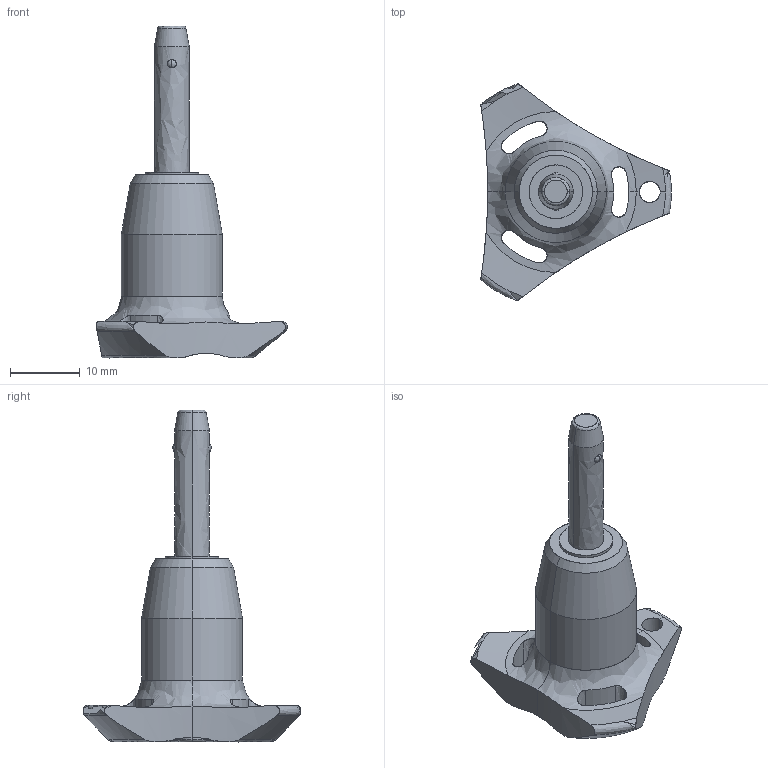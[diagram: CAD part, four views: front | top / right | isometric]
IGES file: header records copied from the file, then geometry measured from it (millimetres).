
Start section: SolidWorks IGES file using analytic representation for surfaces
Global section: file name: C:\Users\ianosborn\Desktop\QR1704_v2\QR1704_v2_20251111_IGES\QR1704.M05-015-S.igs; native system: SolidWorks 2019; preprocessor: SolidWorks 2019; author: IanOsborn; date: 251112.090701; units: millimetre
Bounding box: 27.4 x 31.31 x 47.7 mm (x, y, z)
Surface area: 2744 mm2 (no closed solid volume)
Topology: 0 solids, 0 shells, 66 faces, 1227 edges, 1208 vertices
Faces by surface type: revolution 50, bspline 16
